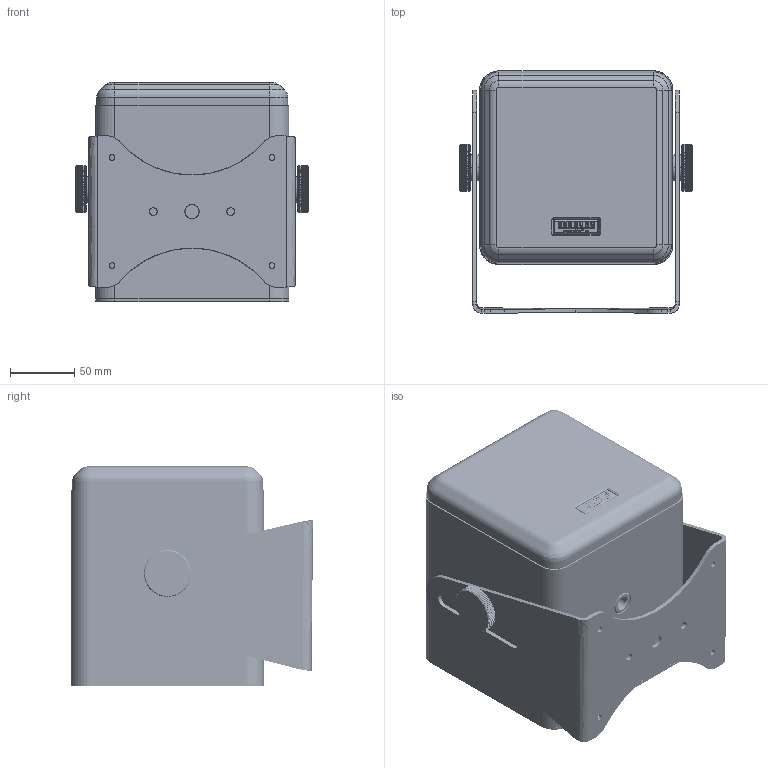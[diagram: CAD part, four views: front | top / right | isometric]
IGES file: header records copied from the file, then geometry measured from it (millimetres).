
Start section: SolidWorks IGES file using analytic representation for surfaces
Global section: file name: C:\Documents and Settings\Administrator\My Documents\Michl\SolidWorks\i5\Homepage\SEEBURG_i5.IGS; native system: SolidWorks 2009; preprocessor: SolidWorks 2009; author: Administrator; date: 150714.133143; units: millimetre
Bounding box: 180.36 x 187.97 x 170 mm (x, y, z)
Surface area: 461336 mm2 (no closed solid volume)
Topology: 0 solids, 0 shells, 3147 faces, 25182 edges, 25150 vertices
Faces by surface type: revolution 1969, bspline 1178
